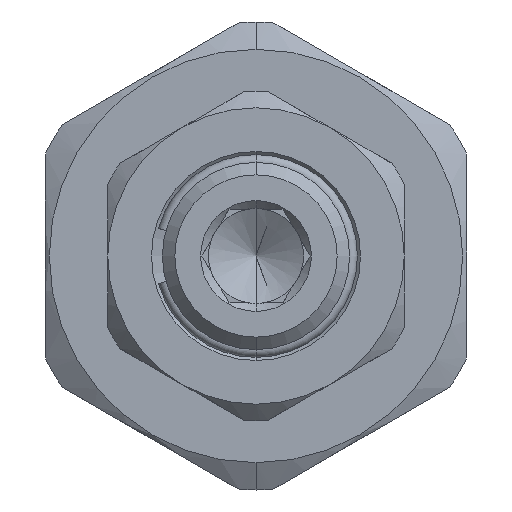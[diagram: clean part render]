
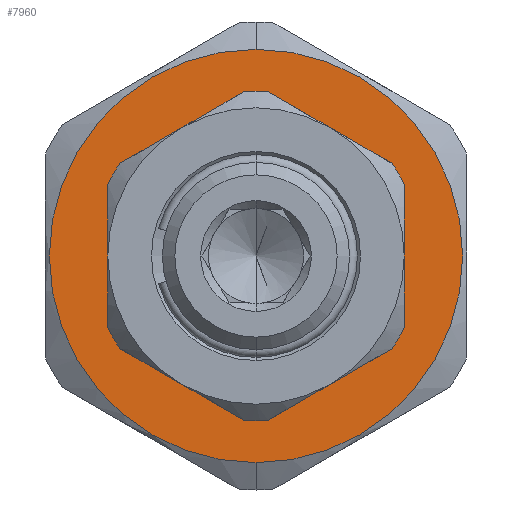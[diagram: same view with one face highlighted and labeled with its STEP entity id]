
A CAD part, left-side view. The second image highlights one B-rep face of the part: STEP entity #7960.
In plain terms, the highlighted planar face has unit normal (-1, 0, 0).
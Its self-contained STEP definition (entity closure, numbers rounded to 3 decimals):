
#22 = EDGE_CURVE ( 'NONE', #6063, #1489, #8025, .T. ) ;
#136 = EDGE_CURVE ( 'NONE', #3661, #6063, #6817, .T. ) ;
#224 = EDGE_CURVE ( 'NONE', #7260, #3661, #6188, .T. ) ;
#281 = EDGE_CURVE ( 'NONE', #6913, #7260, #5855, .T. ) ;
#293 = AXIS2_PLACEMENT_3D ( 'NONE', #5169, #5158, #5135 ) ;
#318 = EDGE_CURVE ( 'NONE', #6476, #6913, #5335, .T. ) ;
#516 = FACE_BOUND ( 'NONE', #4013, .T. ) ;
#523 = EDGE_CURVE ( 'NONE', #1489, #6476, #4710, .T. ) ;
#1017 = ORIENTED_EDGE ( 'NONE', *, *, #8073, .T. ) ;
#1441 = EDGE_LOOP ( 'NONE', ( #2214, #1017 ) ) ;
#1489 = VERTEX_POINT ( 'NONE', #5687 ) ;
#1557 = CARTESIAN_POINT ( 'NONE',  ( -57., 0., 0. ) ) ;
#1747 = ORIENTED_EDGE ( 'NONE', *, *, #22, .F. ) ;
#1954 = CARTESIAN_POINT ( 'NONE',  ( -57., 9.5, 0. ) ) ;
#2082 = VERTEX_POINT ( 'NONE', #8683 ) ;
#2101 = ORIENTED_EDGE ( 'NONE', *, *, #523, .F. ) ;
#2131 = ORIENTED_EDGE ( 'NONE', *, *, #136, .F. ) ;
#2187 = ORIENTED_EDGE ( 'NONE', *, *, #318, .F. ) ;
#2204 = ORIENTED_EDGE ( 'NONE', *, *, #224, .F. ) ;
#2214 = ORIENTED_EDGE ( 'NONE', *, *, #8340, .T. ) ;
#2223 = ORIENTED_EDGE ( 'NONE', *, *, #281, .F. ) ;
#2226 = DIRECTION ( 'NONE',  ( 0., -1., 0. ) ) ;
#2350 = DIRECTION ( 'NONE',  ( -1., 0., 0. ) ) ;
#3533 = DIRECTION ( 'NONE',  ( 0., 0., 1. ) ) ;
#3597 = DIRECTION ( 'NONE',  ( -1., 0., 0. ) ) ;
#3652 = CARTESIAN_POINT ( 'NONE',  ( -57., 0., 0. ) ) ;
#3661 = VERTEX_POINT ( 'NONE', #1954 ) ;
#3734 = AXIS2_PLACEMENT_3D ( 'NONE', #1557, #4502, #4493 ) ;
#4013 = EDGE_LOOP ( 'NONE', ( #1747, #2131, #2204, #2223, #2187, #2101 ) ) ;
#4191 = CARTESIAN_POINT ( 'NONE',  ( -57., 4.75, 8.227 ) ) ;
#4493 = DIRECTION ( 'NONE',  ( 0., -1., 0. ) ) ;
#4502 = DIRECTION ( 'NONE',  ( -1., 0., 0. ) ) ;
#4710 = CIRCLE ( 'NONE', #3734, 9.5 ) ;
#4870 = AXIS2_PLACEMENT_3D ( 'NONE', #6904, #6882, #6865 ) ;
#5135 = DIRECTION ( 'NONE',  ( 0., 0., -1. ) ) ;
#5158 = DIRECTION ( 'NONE',  ( 1., 0., 0. ) ) ;
#5169 = CARTESIAN_POINT ( 'NONE',  ( -57., 13.25, 0. ) ) ;
#5190 = AXIS2_PLACEMENT_3D ( 'NONE', #7418, #7407, #7377 ) ;
#5335 = CIRCLE ( 'NONE', #4870, 9.5 ) ;
#5386 = PLANE ( 'NONE',  #293 ) ;
#5507 = AXIS2_PLACEMENT_3D ( 'NONE', #8124, #8122, #9132 ) ;
#5687 = CARTESIAN_POINT ( 'NONE',  ( -57., -4.75, -8.227 ) ) ;
#5855 = CIRCLE ( 'NONE', #5190, 9.5 ) ;
#5858 = CIRCLE ( 'NONE', #6575, 13.25 ) ;
#5917 = AXIS2_PLACEMENT_3D ( 'NONE', #9027, #9009, #8994 ) ;
#6063 = VERTEX_POINT ( 'NONE', #8258 ) ;
#6188 = CIRCLE ( 'NONE', #5507, 9.5 ) ;
#6476 = VERTEX_POINT ( 'NONE', #7575 ) ;
#6575 = AXIS2_PLACEMENT_3D ( 'NONE', #8812, #8785, #8770 ) ;
#6581 = CARTESIAN_POINT ( 'NONE',  ( -57., -4.75, 8.227 ) ) ;
#6588 = AXIS2_PLACEMENT_3D ( 'NONE', #7800, #2350, #2226 ) ;
#6817 = CIRCLE ( 'NONE', #5917, 9.5 ) ;
#6865 = DIRECTION ( 'NONE',  ( 0., -1., 0. ) ) ;
#6882 = DIRECTION ( 'NONE',  ( -1., 0., 0. ) ) ;
#6904 = CARTESIAN_POINT ( 'NONE',  ( -57., 0., 0. ) ) ;
#6913 = VERTEX_POINT ( 'NONE', #6581 ) ;
#6939 = CIRCLE ( 'NONE', #9458, 13.25 ) ;
#7260 = VERTEX_POINT ( 'NONE', #4191 ) ;
#7377 = DIRECTION ( 'NONE',  ( 0., -1., 0. ) ) ;
#7407 = DIRECTION ( 'NONE',  ( -1., 0., 0. ) ) ;
#7418 = CARTESIAN_POINT ( 'NONE',  ( -57., 0., 0. ) ) ;
#7575 = CARTESIAN_POINT ( 'NONE',  ( -57., -9.5, 0. ) ) ;
#7800 = CARTESIAN_POINT ( 'NONE',  ( -57., 0., 0. ) ) ;
#7960 = ADVANCED_FACE ( 'NONE', ( #516, #8208 ), #5386, .F. ) ;
#8025 = CIRCLE ( 'NONE', #6588, 9.5 ) ;
#8073 = EDGE_CURVE ( 'NONE', #2082, #8351, #6939, .T. ) ;
#8122 = DIRECTION ( 'NONE',  ( -1., 0., 0. ) ) ;
#8124 = CARTESIAN_POINT ( 'NONE',  ( -57., 0., 0. ) ) ;
#8208 = FACE_OUTER_BOUND ( 'NONE', #1441, .T. ) ;
#8258 = CARTESIAN_POINT ( 'NONE',  ( -57., 4.75, -8.227 ) ) ;
#8340 = EDGE_CURVE ( 'NONE', #8351, #2082, #5858, .T. ) ;
#8351 = VERTEX_POINT ( 'NONE', #8553 ) ;
#8553 = CARTESIAN_POINT ( 'NONE',  ( -57., 0., -13.25 ) ) ;
#8683 = CARTESIAN_POINT ( 'NONE',  ( -57., 0., 13.25 ) ) ;
#8770 = DIRECTION ( 'NONE',  ( 0., 0., 1. ) ) ;
#8785 = DIRECTION ( 'NONE',  ( -1., 0., 0. ) ) ;
#8812 = CARTESIAN_POINT ( 'NONE',  ( -57., 0., 0. ) ) ;
#8994 = DIRECTION ( 'NONE',  ( 0., -1., 0. ) ) ;
#9009 = DIRECTION ( 'NONE',  ( -1., 0., 0. ) ) ;
#9027 = CARTESIAN_POINT ( 'NONE',  ( -57., 0., 0. ) ) ;
#9132 = DIRECTION ( 'NONE',  ( 0., -1., 0. ) ) ;
#9458 = AXIS2_PLACEMENT_3D ( 'NONE', #3652, #3597, #3533 ) ;
